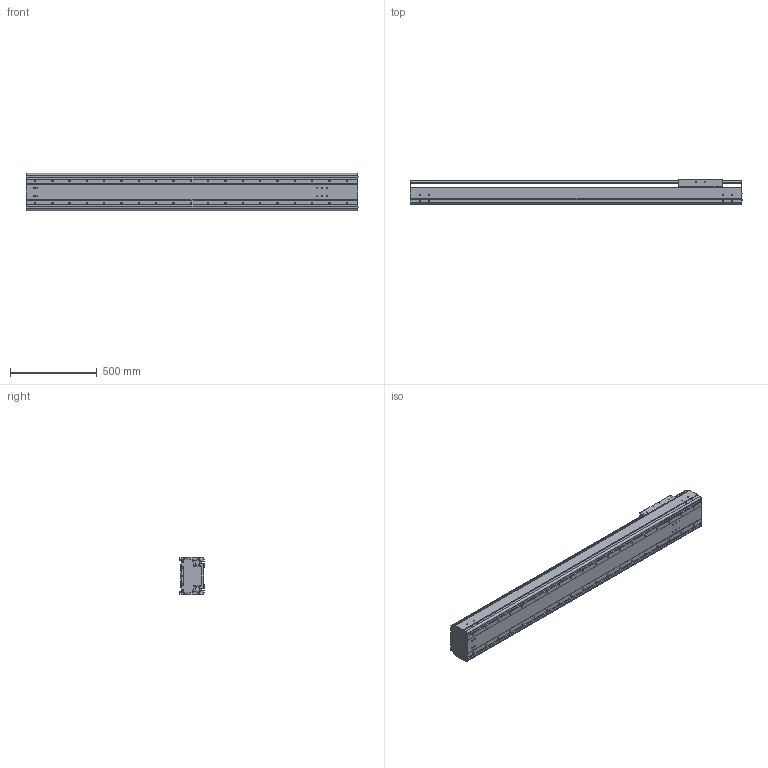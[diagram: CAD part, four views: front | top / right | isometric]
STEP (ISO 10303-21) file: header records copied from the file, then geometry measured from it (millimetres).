
FILE_DESCRIPTION((''),'2;1');
FILE_NAME('BE60G-ST-M_N-F0_IGS_PRT','2017-06-18T',(' '),(''),'PRO/ENGINEER BY PARAMETRIC TECHNOLOGY CORPORATION, 2015030','PRO/ENGINEER BY PARAMETRIC TECHNOLOGY CORPORATION, 2015030','');
FILE_SCHEMA(('CONFIG_CONTROL_DESIGN'));
Length unit declared in the file: millimetre
Products named in the file (1): BE60G-ST-M_N-F0_IGS_PRT
Bounding box: 1917.4 x 140 x 214 mm (x, y, z)
Volume: 14950613.6 mm3; surface area: 3994937.1 mm2
Topology: 2 solids, 168 shells, 1718 faces, 4831 edges, 3177 vertices
Faces by surface type: cylinder 904, plane 638, cone 128, sphere 24, torus 24
Entity records: 57713 total; most frequent: CARTESIAN_POINT 13306, DIRECTION 9302, ORIENTED_EDGE 8750, EDGE_CURVE 4703, AXIS2_PLACEMENT_3D 3493, VERTEX_POINT 3175, VECTOR 2316, LINE 2316
